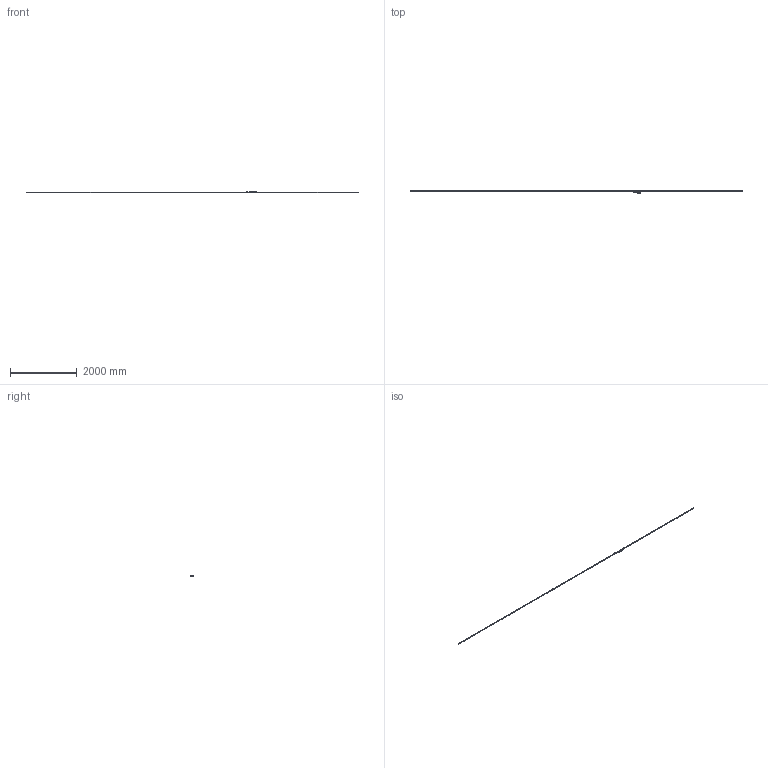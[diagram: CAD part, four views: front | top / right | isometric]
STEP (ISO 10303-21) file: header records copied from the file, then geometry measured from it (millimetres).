
FILE_DESCRIPTION(('Creo Elements/Direct Modeling STEP Export'),'2;1');
FILE_NAME('ST1300-9800D.stp','2018-03-01T16:02:36',(''),(''),'Creo Elements/Direct Modeling STEP processor for AP214 (Solid Model)','Creo Elements/Direct Modeling 18.1B 29-Sep-2012 (C) Parametric Technology GmbH','');
FILE_SCHEMA(('AUTOMOTIVE_DESIGN { 1 0 10303 214 1 1 1 1 }'));
Length unit declared in the file: millimetre
Products named in the file (4): Detector_Head; Connector; Scale_9800; ST1300-9800D
Assembly tree (3 placements, depth 2):
  ST1300-9800D
    Scale_9800
    Connector
    Detector_Head
Bounding box: 9973 x 88.3 x 30.1 mm (x, y, z)
Volume: 844656.9 mm3; surface area: 536944.2 mm2
Topology: 2 solids, 10 shells, 6280 faces, 16820 edges, 10829 vertices
Faces by surface type: plane 2808, cylinder 2254, extrusion 994, cone 135, torus 62, bspline 23, revolution 4
Entity records: 203474 total; most frequent: CARTESIAN_POINT 51656, ORIENTED_EDGE 33616, DIRECTION 27192, EDGE_CURVE 16804, VERTEX_POINT 10829, VECTOR 10036, LINE 9080, AXIS2_PLACEMENT_3D 8575
